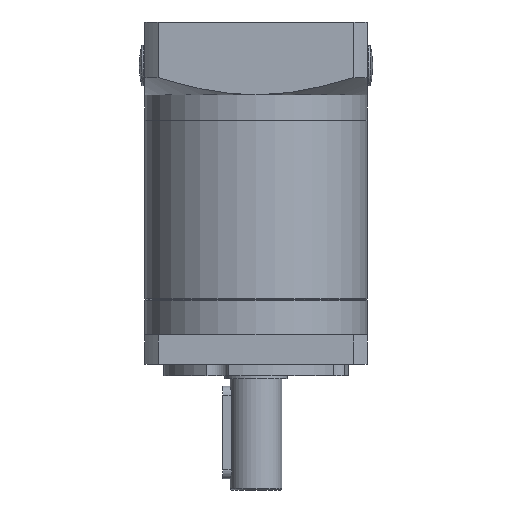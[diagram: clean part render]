
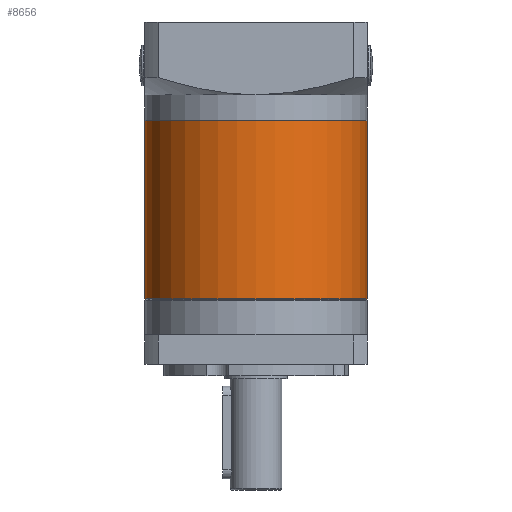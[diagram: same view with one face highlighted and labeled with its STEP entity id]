
A CAD part, front view. The second image highlights one B-rep face of the part: STEP entity #8656.
In plain terms, the highlighted cylindrical face has radius 30 mm (diameter 60 mm), a full revolution.
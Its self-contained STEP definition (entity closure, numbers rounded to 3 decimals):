
#5096=CYLINDRICAL_SURFACE('',#43124,30.);
#8656=ADVANCED_FACE('',(#14375,#14376),#5096,.T.);
#14375=FACE_BOUND('',#16153,.T.);
#14376=FACE_BOUND('',#16154,.T.);
#16153=EDGE_LOOP('',(#22686));
#16154=EDGE_LOOP('',(#22687));
#22686=ORIENTED_EDGE('',*,*,#37561,.T.);
#22687=ORIENTED_EDGE('',*,*,#37562,.T.);
#32072=VERTEX_POINT('',#175171);
#32073=VERTEX_POINT('',#175173);
#37561=EDGE_CURVE('',#32072,#32072,#40601,.T.);
#37562=EDGE_CURVE('',#32073,#32073,#40602,.T.);
#40601=CIRCLE('',#43122,30.);
#40602=CIRCLE('',#43123,30.);
#43122=AXIS2_PLACEMENT_3D('',#175170,#50199,#50200);
#43123=AXIS2_PLACEMENT_3D('',#175172,#50201,#50202);
#43124=AXIS2_PLACEMENT_3D('',#175174,#50203,#50204);
#50199=DIRECTION('',(0.,0.,1.));
#50200=DIRECTION('',(-1.,0.,0.));
#50201=DIRECTION('',(0.,0.,-1.));
#50202=DIRECTION('',(1.,0.,0.));
#50203=DIRECTION('',(0.,0.,1.));
#50204=DIRECTION('',(-1.,0.,0.));
#175170=CARTESIAN_POINT('',(16.792,22.814,22.47));
#175171=CARTESIAN_POINT('',(-13.208,22.814,22.47));
#175172=CARTESIAN_POINT('',(16.792,22.814,70.57));
#175173=CARTESIAN_POINT('',(46.792,22.814,70.57));
#175174=CARTESIAN_POINT('',(16.792,22.814,22.27));
